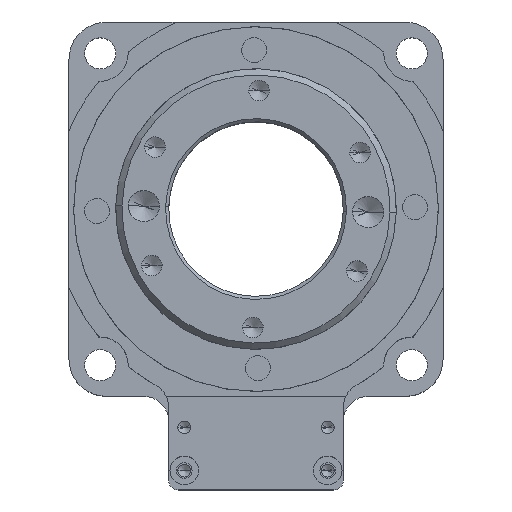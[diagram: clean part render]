
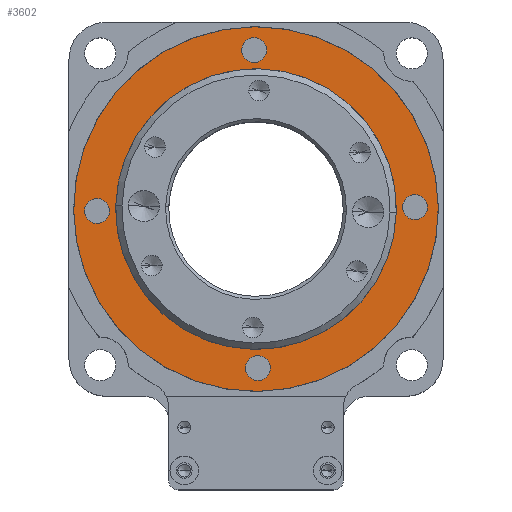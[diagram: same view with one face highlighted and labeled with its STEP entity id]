
A CAD part, top view. The second image highlights one B-rep face of the part: STEP entity #3602.
In plain terms, the highlighted planar face has unit normal (0, 0, 1) as drawn and (0, 0, -1) by its records, which use the part's own axes.
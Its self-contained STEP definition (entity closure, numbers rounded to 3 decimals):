
#46 = DIRECTION ( 'NONE',  ( 1., 0., 0. ) ) ;
#59 = DIRECTION ( 'NONE',  ( 0., 0., 1. ) ) ;
#65 = VERTEX_POINT ( 'NONE', #6662 ) ;
#109 = ORIENTED_EDGE ( 'NONE', *, *, #2326, .F. ) ;
#158 = DIRECTION ( 'NONE',  ( 0., -1., 0. ) ) ;
#168 = CARTESIAN_POINT ( 'NONE',  ( -2., 25.5, -2.5 ) ) ;
#270 = EDGE_CURVE ( 'NONE', #4168, #65, #3302, .T. ) ;
#303 = EDGE_CURVE ( 'NONE', #65, #4168, #1502, .T. ) ;
#314 = DIRECTION ( 'NONE',  ( -1., 0., 0. ) ) ;
#413 = EDGE_CURVE ( 'NONE', #6830, #4555, #6963, .T. ) ;
#779 = EDGE_LOOP ( 'NONE', ( #2784, #7547 ) ) ;
#802 = AXIS2_PLACEMENT_3D ( 'NONE', #2485, #6709, #3104 ) ;
#1056 = DIRECTION ( 'NONE',  ( 0., 0., -1. ) ) ;
#1109 = ORIENTED_EDGE ( 'NONE', *, *, #413, .F. ) ;
#1317 = CIRCLE ( 'NONE', #2929, 2. ) ;
#1502 = CIRCLE ( 'NONE', #1973, 29.25 ) ;
#1614 = DIRECTION ( 'NONE',  ( 0., 0., 1. ) ) ;
#1634 = ORIENTED_EDGE ( 'NONE', *, *, #6436, .T. ) ;
#1773 = CARTESIAN_POINT ( 'NONE',  ( -2., -25.5, -2.5 ) ) ;
#1793 = EDGE_CURVE ( 'NONE', #3333, #3795, #3246, .T. ) ;
#1795 = VERTEX_POINT ( 'NONE', #2433 ) ;
#1845 = CARTESIAN_POINT ( 'NONE',  ( 0., 0., -2.5 ) ) ;
#1973 = AXIS2_PLACEMENT_3D ( 'NONE', #5224, #1614, #5824 ) ;
#2015 = EDGE_CURVE ( 'NONE', #4110, #1795, #5105, .T. ) ;
#2045 = ORIENTED_EDGE ( 'NONE', *, *, #6439, .F. ) ;
#2094 = CARTESIAN_POINT ( 'NONE',  ( 2., 25.5, -2.5 ) ) ;
#2221 = DIRECTION ( 'NONE',  ( 0., 0., 1. ) ) ;
#2326 = EDGE_CURVE ( 'NONE', #1795, #4110, #4625, .T. ) ;
#2408 = VERTEX_POINT ( 'NONE', #6874 ) ;
#2433 = CARTESIAN_POINT ( 'NONE',  ( 2., -25.5, -2.5 ) ) ;
#2483 = EDGE_LOOP ( 'NONE', ( #4919, #5670 ) ) ;
#2485 = CARTESIAN_POINT ( 'NONE',  ( 25.5, 0., -2.5 ) ) ;
#2515 = AXIS2_PLACEMENT_3D ( 'NONE', #5823, #2221, #6437 ) ;
#2556 = ORIENTED_EDGE ( 'NONE', *, *, #5925, .F. ) ;
#2784 = ORIENTED_EDGE ( 'NONE', *, *, #303, .F. ) ;
#2923 = CIRCLE ( 'NONE', #3238, 2. ) ;
#2929 = AXIS2_PLACEMENT_3D ( 'NONE', #3445, #7628, #4026 ) ;
#3070 = EDGE_CURVE ( 'NONE', #4695, #2408, #5095, .T. ) ;
#3104 = DIRECTION ( 'NONE',  ( 0., 1., 0. ) ) ;
#3178 = AXIS2_PLACEMENT_3D ( 'NONE', #3230, #7414, #3827 ) ;
#3200 = EDGE_LOOP ( 'NONE', ( #4611, #109 ) ) ;
#3214 = CARTESIAN_POINT ( 'NONE',  ( -22.5, 0., -2.5 ) ) ;
#3230 = CARTESIAN_POINT ( 'NONE',  ( 0., -25.5, -2.5 ) ) ;
#3238 = AXIS2_PLACEMENT_3D ( 'NONE', #7352, #3754, #158 ) ;
#3246 = CIRCLE ( 'NONE', #6840, 22.5 ) ;
#3267 = DIRECTION ( 'NONE',  ( 0., 0., 1. ) ) ;
#3275 = DIRECTION ( 'NONE',  ( 0., 0., -1. ) ) ;
#3302 = CIRCLE ( 'NONE', #7341, 29.25 ) ;
#3327 = AXIS2_PLACEMENT_3D ( 'NONE', #1845, #3662, #46 ) ;
#3333 = VERTEX_POINT ( 'NONE', #3214 ) ;
#3445 = CARTESIAN_POINT ( 'NONE',  ( 0., 25.5, -2.5 ) ) ;
#3556 = DIRECTION ( 'NONE',  ( 0., 0., -1. ) ) ;
#3602 = ADVANCED_FACE ( 'NONE', ( #6199, #5996, #4392, #7575, #5798, #7399 ), #7248, .F. ) ;
#3662 = DIRECTION ( 'NONE',  ( 0., 0., 1. ) ) ;
#3669 = CARTESIAN_POINT ( 'NONE',  ( 0., 0., -2.5 ) ) ;
#3754 = DIRECTION ( 'NONE',  ( 0., 0., -1. ) ) ;
#3795 = VERTEX_POINT ( 'NONE', #5639 ) ;
#3817 = CARTESIAN_POINT ( 'NONE',  ( -27.5, 0., -2.5 ) ) ;
#3827 = DIRECTION ( 'NONE',  ( 1., 0., 0. ) ) ;
#3915 = DIRECTION ( 'NONE',  ( 0., 0., -1. ) ) ;
#3951 = EDGE_LOOP ( 'NONE', ( #2556, #1109 ) ) ;
#4026 = DIRECTION ( 'NONE',  ( -1., 0., 0. ) ) ;
#4110 = VERTEX_POINT ( 'NONE', #1773 ) ;
#4168 = VERTEX_POINT ( 'NONE', #4205 ) ;
#4205 = CARTESIAN_POINT ( 'NONE',  ( 29.25, 0., -2.5 ) ) ;
#4252 = DIRECTION ( 'NONE',  ( 1., 0., 0. ) ) ;
#4392 = FACE_BOUND ( 'NONE', #2483, .T. ) ;
#4555 = VERTEX_POINT ( 'NONE', #3817 ) ;
#4611 = ORIENTED_EDGE ( 'NONE', *, *, #2015, .F. ) ;
#4624 = EDGE_CURVE ( 'NONE', #5586, #7519, #5781, .T. ) ;
#4625 = CIRCLE ( 'NONE', #3178, 2. ) ;
#4668 = CARTESIAN_POINT ( 'NONE',  ( 25.5, 0., -2.5 ) ) ;
#4695 = VERTEX_POINT ( 'NONE', #6392 ) ;
#4698 = CIRCLE ( 'NONE', #802, 2. ) ;
#4838 = ORIENTED_EDGE ( 'NONE', *, *, #1793, .T. ) ;
#4919 = ORIENTED_EDGE ( 'NONE', *, *, #5882, .F. ) ;
#5095 = CIRCLE ( 'NONE', #7292, 2. ) ;
#5105 = CIRCLE ( 'NONE', #5865, 2. ) ;
#5133 = AXIS2_PLACEMENT_3D ( 'NONE', #7499, #3915, #314 ) ;
#5204 = EDGE_LOOP ( 'NONE', ( #5227, #2045 ) ) ;
#5224 = CARTESIAN_POINT ( 'NONE',  ( 0., 0., -2.5 ) ) ;
#5227 = ORIENTED_EDGE ( 'NONE', *, *, #4624, .F. ) ;
#5282 = DIRECTION ( 'NONE',  ( 0., 1., 0. ) ) ;
#5586 = VERTEX_POINT ( 'NONE', #168 ) ;
#5589 = AXIS2_PLACEMENT_3D ( 'NONE', #7137, #3556, #7737 ) ;
#5639 = CARTESIAN_POINT ( 'NONE',  ( 22.5, 0., -2.5 ) ) ;
#5670 = ORIENTED_EDGE ( 'NONE', *, *, #3070, .F. ) ;
#5781 = CIRCLE ( 'NONE', #5133, 2. ) ;
#5798 = FACE_OUTER_BOUND ( 'NONE', #779, .T. ) ;
#5823 = CARTESIAN_POINT ( 'NONE',  ( 0., 0., -2.5 ) ) ;
#5824 = DIRECTION ( 'NONE',  ( 1., 0., 0. ) ) ;
#5865 = AXIS2_PLACEMENT_3D ( 'NONE', #6866, #3275, #7454 ) ;
#5882 = EDGE_CURVE ( 'NONE', #2408, #4695, #4698, .T. ) ;
#5925 = EDGE_CURVE ( 'NONE', #4555, #6830, #2923, .T. ) ;
#5996 = FACE_BOUND ( 'NONE', #3200, .T. ) ;
#6199 = FACE_BOUND ( 'NONE', #3951, .T. ) ;
#6309 = CIRCLE ( 'NONE', #2515, 22.5 ) ;
#6392 = CARTESIAN_POINT ( 'NONE',  ( 27.5, 0., -2.5 ) ) ;
#6436 = EDGE_CURVE ( 'NONE', #3795, #3333, #6309, .T. ) ;
#6437 = DIRECTION ( 'NONE',  ( 1., 0., 0. ) ) ;
#6439 = EDGE_CURVE ( 'NONE', #7519, #5586, #1317, .T. ) ;
#6662 = CARTESIAN_POINT ( 'NONE',  ( -29.25, 0., -2.5 ) ) ;
#6709 = DIRECTION ( 'NONE',  ( 0., 0., -1. ) ) ;
#6830 = VERTEX_POINT ( 'NONE', #7371 ) ;
#6840 = AXIS2_PLACEMENT_3D ( 'NONE', #3669, #59, #4252 ) ;
#6861 = CARTESIAN_POINT ( 'NONE',  ( 0., 0., -2.5 ) ) ;
#6866 = CARTESIAN_POINT ( 'NONE',  ( 0., -25.5, -2.5 ) ) ;
#6874 = CARTESIAN_POINT ( 'NONE',  ( 23.5, 0., -2.5 ) ) ;
#6963 = CIRCLE ( 'NONE', #5589, 2. ) ;
#7137 = CARTESIAN_POINT ( 'NONE',  ( -25.5, 0., -2.5 ) ) ;
#7248 = PLANE ( 'NONE',  #3327 ) ;
#7292 = AXIS2_PLACEMENT_3D ( 'NONE', #4668, #1056, #5282 ) ;
#7341 = AXIS2_PLACEMENT_3D ( 'NONE', #6861, #3267, #7449 ) ;
#7352 = CARTESIAN_POINT ( 'NONE',  ( -25.5, 0., -2.5 ) ) ;
#7371 = CARTESIAN_POINT ( 'NONE',  ( -23.5, 0., -2.5 ) ) ;
#7399 = FACE_BOUND ( 'NONE', #7470, .T. ) ;
#7414 = DIRECTION ( 'NONE',  ( 0., 0., -1. ) ) ;
#7449 = DIRECTION ( 'NONE',  ( 1., 0., 0. ) ) ;
#7454 = DIRECTION ( 'NONE',  ( 1., 0., 0. ) ) ;
#7470 = EDGE_LOOP ( 'NONE', ( #4838, #1634 ) ) ;
#7499 = CARTESIAN_POINT ( 'NONE',  ( 0., 25.5, -2.5 ) ) ;
#7519 = VERTEX_POINT ( 'NONE', #2094 ) ;
#7547 = ORIENTED_EDGE ( 'NONE', *, *, #270, .F. ) ;
#7575 = FACE_BOUND ( 'NONE', #5204, .T. ) ;
#7628 = DIRECTION ( 'NONE',  ( 0., 0., -1. ) ) ;
#7737 = DIRECTION ( 'NONE',  ( 0., -1., 0. ) ) ;
